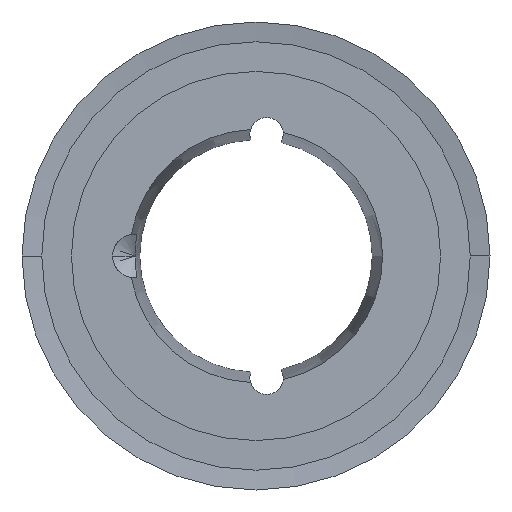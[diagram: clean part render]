
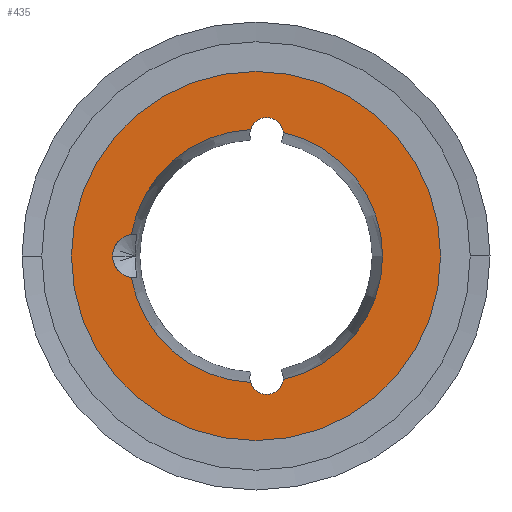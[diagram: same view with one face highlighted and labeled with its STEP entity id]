
A CAD part, left-side view. The second image highlights one B-rep face of the part: STEP entity #435.
In plain terms, the highlighted planar face has unit normal (-1, 0, 0).
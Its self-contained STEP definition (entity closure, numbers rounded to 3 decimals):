
#435 = ADVANCED_FACE( '', ( #1163, #1164 ), #1165, .T. );
#1163 = FACE_BOUND( '', #1892, .T. );
#1164 = FACE_OUTER_BOUND( '', #1893, .T. );
#1165 = PLANE( '', #1894 );
#1892 = EDGE_LOOP( '', ( #5073, #5074, #5075, #5076, #5077, #5078, #5079, #5080 ) );
#1893 = EDGE_LOOP( '', ( #5081, #5082 ) );
#1894 = AXIS2_PLACEMENT_3D( '', #5083, #5084, #5085 );
#5073 = ORIENTED_EDGE( '', *, *, #5156, .T. );
#5074 = ORIENTED_EDGE( '', *, *, #5148, .F. );
#5075 = ORIENTED_EDGE( '', *, *, #5160, .F. );
#5076 = ORIENTED_EDGE( '', *, *, #5138, .T. );
#5077 = ORIENTED_EDGE( '', *, *, #5161, .F. );
#5078 = ORIENTED_EDGE( '', *, *, #5130, .T. );
#5079 = ORIENTED_EDGE( '', *, *, #5165, .T. );
#5080 = ORIENTED_EDGE( '', *, *, #5144, .F. );
#5081 = ORIENTED_EDGE( '', *, *, #5089, .T. );
#5082 = ORIENTED_EDGE( '', *, *, #6139, .T. );
#5083 = CARTESIAN_POINT( '', ( 0., 23.6, 0. ) );
#5084 = DIRECTION( '', ( -1., 0., 0. ) );
#5085 = DIRECTION( '', ( 0., 1., 0. ) );
#5089 = EDGE_CURVE( '', #6141, #6145, #6147, .T. );
#5130 = EDGE_CURVE( '', #6221, #6219, #6222, .T. );
#5138 = EDGE_CURVE( '', #6236, #6234, #6237, .T. );
#5144 = EDGE_CURVE( '', #6245, #6247, #6248, .T. );
#5148 = EDGE_CURVE( '', #6252, #6255, #6256, .T. );
#5156 = EDGE_CURVE( '', #6245, #6255, #6268, .T. );
#5160 = EDGE_CURVE( '', #6236, #6252, #6273, .T. );
#5161 = EDGE_CURVE( '', #6221, #6234, #6274, .T. );
#5165 = EDGE_CURVE( '', #6219, #6247, #6278, .T. );
#6139 = EDGE_CURVE( '', #6145, #6141, #7893, .T. );
#6141 = VERTEX_POINT( '', #7895 );
#6145 = VERTEX_POINT( '', #7900 );
#6147 = CIRCLE( '', #7903, 28. );
#6219 = VERTEX_POINT( '', #8018 );
#6221 = VERTEX_POINT( '', #8021 );
#6222 = CIRCLE( '', #8022, 3.3 );
#6234 = VERTEX_POINT( '', #8050 );
#6236 = VERTEX_POINT( '', #8061 );
#6237 = CIRCLE( '', #8062, 2.55 );
#6245 = VERTEX_POINT( '', #8089 );
#6247 = VERTEX_POINT( '', #8100 );
#6248 = CIRCLE( '', #8101, 19.2 );
#6252 = VERTEX_POINT( '', #8135 );
#6255 = VERTEX_POINT( '', #8139 );
#6256 = CIRCLE( '', #8140, 19.2 );
#6268 = CIRCLE( '', #8172, 2.55 );
#6273 = CIRCLE( '', #8186, 19.2 );
#6274 = CIRCLE( '', #8187, 19.2 );
#6278 = CIRCLE( '', #8191, 3.3 );
#7893 = CIRCLE( '', #10366, 28. );
#7895 = CARTESIAN_POINT( '', ( 0., 28., 0. ) );
#7900 = CARTESIAN_POINT( '', ( 0., -28., 0. ) );
#7903 = AXIS2_PLACEMENT_3D( '', #10372, #10373, #10374 );
#8018 = CARTESIAN_POINT( '', ( 0., 21.76, 0. ) );
#8021 = CARTESIAN_POINT( '', ( 0., 18.92, -3.268 ) );
#8022 = AXIS2_PLACEMENT_3D( '', #10454, #10455, #10456 );
#8050 = CARTESIAN_POINT( '', ( 0., 0.837, -19.182 ) );
#8061 = CARTESIAN_POINT( '', ( 0., -4.143, -18.748 ) );
#8062 = AXIS2_PLACEMENT_3D( '', #10465, #10466, #10467 );
#8089 = CARTESIAN_POINT( '', ( 0., 0.837, 19.182 ) );
#8100 = CARTESIAN_POINT( '', ( 0., 18.92, 3.268 ) );
#8101 = AXIS2_PLACEMENT_3D( '', #10472, #10473, #10474 );
#8135 = CARTESIAN_POINT( '', ( 0., -19.2, 0. ) );
#8139 = CARTESIAN_POINT( '', ( 0., -4.143, 18.748 ) );
#8140 = AXIS2_PLACEMENT_3D( '', #10476, #10477, #10478 );
#8172 = AXIS2_PLACEMENT_3D( '', #10490, #10491, #10492 );
#8186 = AXIS2_PLACEMENT_3D( '', #10499, #10500, #10501 );
#8187 = AXIS2_PLACEMENT_3D( '', #10502, #10503, #10504 );
#8191 = AXIS2_PLACEMENT_3D( '', #10514, #10515, #10516 );
#10366 = AXIS2_PLACEMENT_3D( '', #12316, #12317, #12318 );
#10372 = CARTESIAN_POINT( '', ( 0., 0., 0. ) );
#10373 = DIRECTION( '', ( -1., 0., 0. ) );
#10374 = DIRECTION( '', ( 0., 1., 0. ) );
#10454 = CARTESIAN_POINT( '', ( 0., 18.46, 0. ) );
#10455 = DIRECTION( '', ( 1., 0., 0. ) );
#10456 = DIRECTION( '', ( 0., 1., 0. ) );
#10465 = CARTESIAN_POINT( '', ( 0., -1.609, -18.46 ) );
#10466 = DIRECTION( '', ( 1., 0., 0. ) );
#10467 = DIRECTION( '', ( 0., -1., 0. ) );
#10472 = CARTESIAN_POINT( '', ( 0., 0., 0. ) );
#10473 = DIRECTION( '', ( -1., 0., 0. ) );
#10474 = DIRECTION( '', ( 0., 1., 0. ) );
#10476 = CARTESIAN_POINT( '', ( 0., 0., 0. ) );
#10477 = DIRECTION( '', ( -1., 0., 0. ) );
#10478 = DIRECTION( '', ( 0., 1., 0. ) );
#10490 = CARTESIAN_POINT( '', ( 0., -1.609, 18.46 ) );
#10491 = DIRECTION( '', ( 1., 0., 0. ) );
#10492 = DIRECTION( '', ( 0., -1., 0. ) );
#10499 = CARTESIAN_POINT( '', ( 0., 0., 0. ) );
#10500 = DIRECTION( '', ( -1., 0., 0. ) );
#10501 = DIRECTION( '', ( 0., 1., 0. ) );
#10502 = CARTESIAN_POINT( '', ( 0., 0., 0. ) );
#10503 = DIRECTION( '', ( -1., 0., 0. ) );
#10504 = DIRECTION( '', ( 0., 1., 0. ) );
#10514 = CARTESIAN_POINT( '', ( 0., 18.46, 0. ) );
#10515 = DIRECTION( '', ( 1., 0., 0. ) );
#10516 = DIRECTION( '', ( 0., 1., 0. ) );
#12316 = CARTESIAN_POINT( '', ( 0., 0., 0. ) );
#12317 = DIRECTION( '', ( -1., 0., 0. ) );
#12318 = DIRECTION( '', ( 0., 1., 0. ) );
